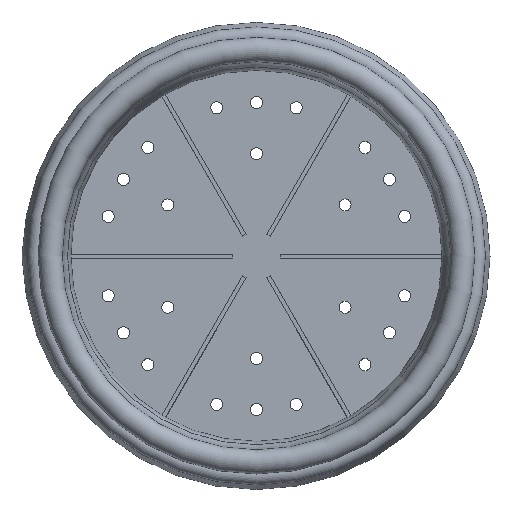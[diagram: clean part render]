
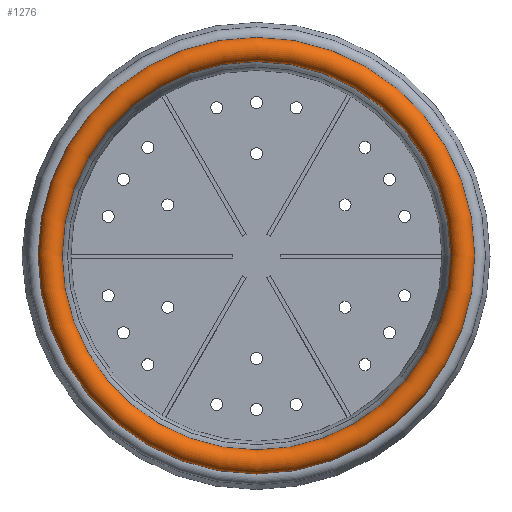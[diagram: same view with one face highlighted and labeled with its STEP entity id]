
A CAD part, top view. The second image highlights one B-rep face of the part: STEP entity #1276.
In plain terms, the highlighted toroidal (fillet/blend) face has major radius 85.68 mm and minor radius 5 mm.
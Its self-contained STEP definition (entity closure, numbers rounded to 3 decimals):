
#18=TOROIDAL_SURFACE('',#1441,85.68,5.);
#154=FACE_OUTER_BOUND('',#245,.T.);
#245=EDGE_LOOP('',(#1097,#1098,#1099,#1100));
#522=CIRCLE('',#1440,89.51);
#523=CIRCLE('',#1442,80.68);
#524=CIRCLE('',#1443,5.);
#643=VERTEX_POINT('',#2201);
#644=VERTEX_POINT('',#2205);
#810=EDGE_CURVE('',#643,#643,#522,.T.);
#812=EDGE_CURVE('',#644,#644,#523,.T.);
#813=EDGE_CURVE('',#644,#643,#524,.T.);
#1097=ORIENTED_EDGE('',*,*,#812,.F.);
#1098=ORIENTED_EDGE('',*,*,#813,.T.);
#1099=ORIENTED_EDGE('',*,*,#810,.T.);
#1100=ORIENTED_EDGE('',*,*,#813,.F.);
#1276=ADVANCED_FACE('',(#154),#18,.T.);
#1440=AXIS2_PLACEMENT_3D('',#2202,#1821,#1822);
#1441=AXIS2_PLACEMENT_3D('',#2204,#1824,#1825);
#1442=AXIS2_PLACEMENT_3D('',#2206,#1826,#1827);
#1443=AXIS2_PLACEMENT_3D('',#2207,#1828,#1829);
#1821=DIRECTION('center_axis',(0.,0.,1.));
#1822=DIRECTION('ref_axis',(1.,0.,0.));
#1824=DIRECTION('center_axis',(0.,0.,1.));
#1825=DIRECTION('ref_axis',(1.,0.,0.));
#1826=DIRECTION('center_axis',(0.,0.,1.));
#1827=DIRECTION('ref_axis',(1.,0.,0.));
#1828=DIRECTION('center_axis',(0.,-1.,0.));
#1829=DIRECTION('ref_axis',(-1.,0.,0.));
#2201=CARTESIAN_POINT('',(-89.51,0.,91.786));
#2202=CARTESIAN_POINT('Origin',(0.,0.,91.786));
#2204=CARTESIAN_POINT('Origin',(0.,0.,95.));
#2205=CARTESIAN_POINT('',(-80.68,0.,95.));
#2206=CARTESIAN_POINT('Origin',(0.,0.,95.));
#2207=CARTESIAN_POINT('Origin',(-85.68,0.,
95.));
